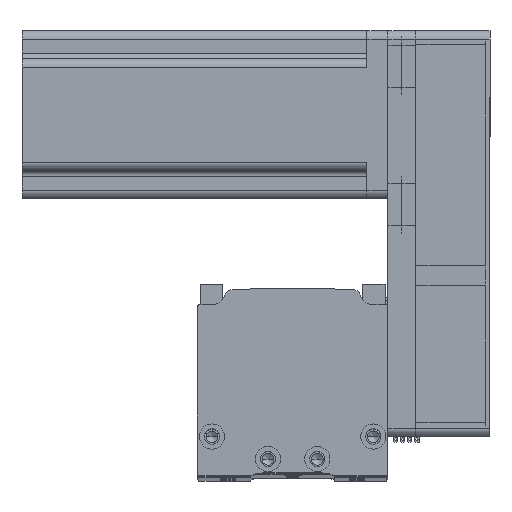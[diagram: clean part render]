
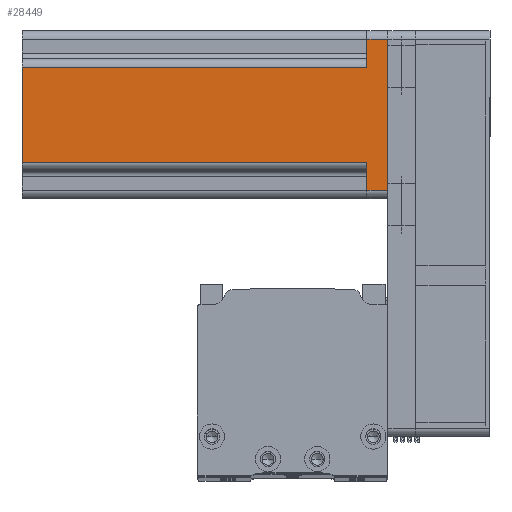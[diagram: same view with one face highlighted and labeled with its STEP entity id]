
A CAD part, top view. The second image highlights one B-rep face of the part: STEP entity #28449.
In plain terms, the highlighted planar face has unit normal (0, 0, 1) as drawn and (0, -1, 0) by its records, which use the part's own axes.
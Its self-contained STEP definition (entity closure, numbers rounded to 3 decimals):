
#1050 = DIRECTION ( 'NONE',  ( 0., 0., -1. ) ) ;
#2138 = EDGE_CURVE ( 'NONE', #11740, #15299, #6522, .T. ) ;
#3423 = VERTEX_POINT ( 'NONE', #39098 ) ;
#3459 = CARTESIAN_POINT ( 'NONE',  ( 20., -30., 7.5 ) ) ;
#3934 = FACE_OUTER_BOUND ( 'NONE', #40921, .T. ) ;
#4936 = CARTESIAN_POINT ( 'NONE',  ( 17., -30., 7.5 ) ) ;
#6052 = LINE ( 'NONE', #47006, #45644 ) ;
#6369 = VERTEX_POINT ( 'NONE', #41733 ) ;
#6522 = LINE ( 'NONE', #13238, #46108 ) ;
#7461 = LINE ( 'NONE', #3459, #27803 ) ;
#7489 = CARTESIAN_POINT ( 'NONE',  ( -27., -30., 7.5 ) ) ;
#7520 = EDGE_CURVE ( 'NONE', #47746, #6369, #6052, .T. ) ;
#7586 = EDGE_CURVE ( 'NONE', #33397, #6369, #21615, .T. ) ;
#7763 = CARTESIAN_POINT ( 'NONE',  ( 30., -30., 130.7 ) ) ;
#10265 = DIRECTION ( 'NONE',  ( 0., 0., 1. ) ) ;
#10485 = EDGE_CURVE ( 'NONE', #28000, #38769, #17422, .T. ) ;
#11317 = CARTESIAN_POINT ( 'NONE',  ( -27., -30., 0. ) ) ;
#11603 = DIRECTION ( 'NONE',  ( -1., 0., 0. ) ) ;
#11740 = VERTEX_POINT ( 'NONE', #11317 ) ;
#11753 = DIRECTION ( 'NONE',  ( 1., 0., 0. ) ) ;
#13238 = CARTESIAN_POINT ( 'NONE',  ( 30., -30., 0. ) ) ;
#13754 = DIRECTION ( 'NONE',  ( 1., 0., 0. ) ) ;
#14830 = ORIENTED_EDGE ( 'NONE', *, *, #32404, .T. ) ;
#15299 = VERTEX_POINT ( 'NONE', #22132 ) ;
#17422 = LINE ( 'NONE', #40952, #26399 ) ;
#18854 = VECTOR ( 'NONE', #23337, 1000. ) ;
#19105 = PLANE ( 'NONE',  #25262 ) ;
#19475 = CARTESIAN_POINT ( 'NONE',  ( -27., -30., 130.7 ) ) ;
#21615 = LINE ( 'NONE', #32071, #48591 ) ;
#21829 = ORIENTED_EDGE ( 'NONE', *, *, #24527, .T. ) ;
#21924 = DIRECTION ( 'NONE',  ( 0., 0., 1. ) ) ;
#22132 = CARTESIAN_POINT ( 'NONE',  ( 27., -30., 0. ) ) ;
#23048 = VECTOR ( 'NONE', #21924, 1000. ) ;
#23337 = DIRECTION ( 'NONE',  ( 0., 0., -1. ) ) ;
#24209 = LINE ( 'NONE', #48750, #23048 ) ;
#24527 = EDGE_CURVE ( 'NONE', #3423, #28000, #7461, .T. ) ;
#25262 = AXIS2_PLACEMENT_3D ( 'NONE', #7763, #34533, #11603 ) ;
#26399 = VECTOR ( 'NONE', #10265, 1000. ) ;
#26966 = CARTESIAN_POINT ( 'NONE',  ( 17., -30., 130.7 ) ) ;
#27803 = VECTOR ( 'NONE', #30263, 1000. ) ;
#27901 = VECTOR ( 'NONE', #13754, 1000. ) ;
#28000 = VERTEX_POINT ( 'NONE', #4936 ) ;
#28449 = ADVANCED_FACE ( 'NONE', ( #3934 ), #19105, .F. ) ;
#29115 = LINE ( 'NONE', #40579, #27901 ) ;
#30120 = ORIENTED_EDGE ( 'NONE', *, *, #2138, .T. ) ;
#30263 = DIRECTION ( 'NONE',  ( -1., 0., 0. ) ) ;
#32071 = CARTESIAN_POINT ( 'NONE',  ( -20., -30., 7.5 ) ) ;
#32104 = EDGE_CURVE ( 'NONE', #47746, #38769, #29115, .T. ) ;
#32404 = EDGE_CURVE ( 'NONE', #33397, #11740, #49480, .T. ) ;
#33397 = VERTEX_POINT ( 'NONE', #7489 ) ;
#33644 = ORIENTED_EDGE ( 'NONE', *, *, #7586, .F. ) ;
#34533 = DIRECTION ( 'NONE',  ( 0., 1., 0. ) ) ;
#37031 = ORIENTED_EDGE ( 'NONE', *, *, #7520, .T. ) ;
#38769 = VERTEX_POINT ( 'NONE', #26966 ) ;
#39098 = CARTESIAN_POINT ( 'NONE',  ( 27., -30., 7.5 ) ) ;
#40579 = CARTESIAN_POINT ( 'NONE',  ( 30., -30., 130.7 ) ) ;
#40921 = EDGE_LOOP ( 'NONE', ( #41691, #37031, #33644, #14830, #30120, #42265, #21829, #45190 ) ) ;
#40952 = CARTESIAN_POINT ( 'NONE',  ( 17., -30., 130.7 ) ) ;
#41691 = ORIENTED_EDGE ( 'NONE', *, *, #32104, .F. ) ;
#41733 = CARTESIAN_POINT ( 'NONE',  ( -17., -30., 7.5 ) ) ;
#42265 = ORIENTED_EDGE ( 'NONE', *, *, #47886, .T. ) ;
#43267 = CARTESIAN_POINT ( 'NONE',  ( -17., -30., 130.7 ) ) ;
#45190 = ORIENTED_EDGE ( 'NONE', *, *, #10485, .T. ) ;
#45644 = VECTOR ( 'NONE', #1050, 1000. ) ;
#46108 = VECTOR ( 'NONE', #11753, 1000. ) ;
#47006 = CARTESIAN_POINT ( 'NONE',  ( -17., -30., 130.7 ) ) ;
#47490 = DIRECTION ( 'NONE',  ( 1., 0., 0. ) ) ;
#47746 = VERTEX_POINT ( 'NONE', #43267 ) ;
#47886 = EDGE_CURVE ( 'NONE', #15299, #3423, #24209, .T. ) ;
#48591 = VECTOR ( 'NONE', #47490, 1000. ) ;
#48750 = CARTESIAN_POINT ( 'NONE',  ( 27., -30., 130.7 ) ) ;
#49480 = LINE ( 'NONE', #19475, #18854 ) ;
